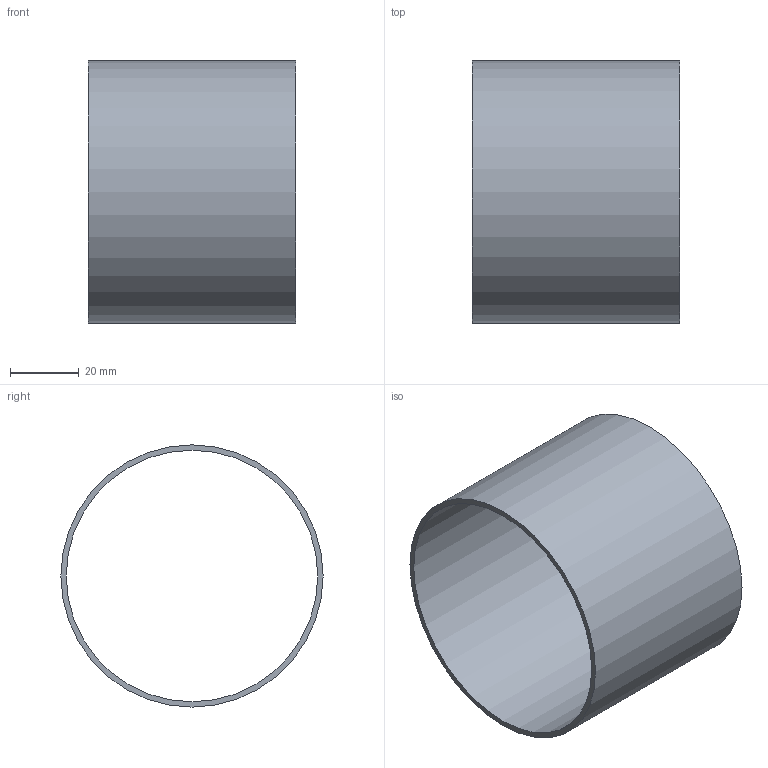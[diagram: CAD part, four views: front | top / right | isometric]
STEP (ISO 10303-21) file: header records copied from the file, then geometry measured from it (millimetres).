
FILE_DESCRIPTION(('Open CASCADE Model'),'2;1');
FILE_NAME('Open CASCADE Shape Model','2026-11-02T23:22:40',('Author'),( 'Open CASCADE'),'Open CASCADE STEP processor 7.9','Open CASCADE 7.9' ,'Unknown');
FILE_SCHEMA(('AUTOMOTIVE_DESIGN { 1 0 10303 214 1 1 1 1 }'));
Length unit declared in the file: millimetre
Products named in the file (1): Open CASCADE STEP translator 7.9 12
Bounding box: 60.2 x 76.2 x 76.2 mm (x, y, z)
Volume: 21883.1 mm3; surface area: 28963.2 mm2
Topology: 1 solids, 1 shells, 4 faces, 6 edges, 4 vertices
Faces by surface type: cylinder 2, plane 2
Full cylindrical faces by diameter (mm): 73.1 x1, 76.2 x1
Entity records: 186 total; most frequent: DIRECTION 32, CARTESIAN_POINT 27, ORIENTED_EDGE 12, PCURVE 12, DEFINITIONAL_REPRESENTATION 12, LINE 10, VECTOR 10, AXIS2_PLACEMENT_3D 9
